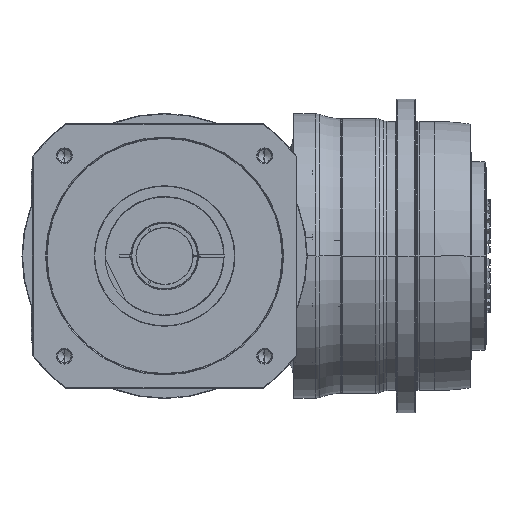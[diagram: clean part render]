
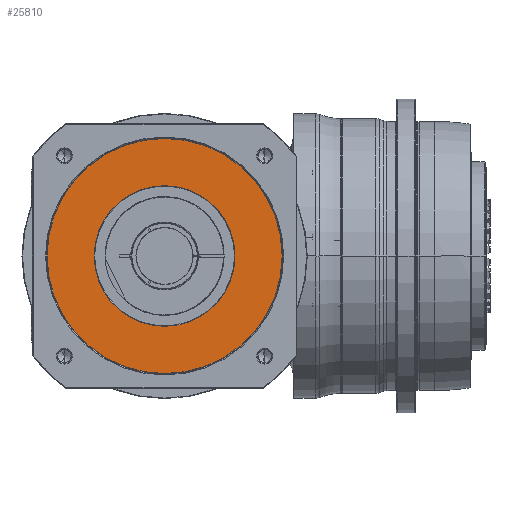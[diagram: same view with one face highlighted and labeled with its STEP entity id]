
A CAD part, front view. The second image highlights one B-rep face of the part: STEP entity #25810.
In plain terms, the highlighted planar face has unit normal (0, -1, 0) as drawn and (0, 0, 1) by its records, which use the part's own axes.
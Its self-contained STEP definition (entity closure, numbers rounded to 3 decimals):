
#24541=CARTESIAN_POINT('',(0.,0.,58.));
#24542=DIRECTION('',(0.,0.,-1.));
#24543=DIRECTION('',(0.,-1.,0.));
#24544=AXIS2_PLACEMENT_3D('',#24541,#24542,#24543);
#24546=CARTESIAN_POINT('',(0.,0.,58.));
#24547=DIRECTION('',(0.,0.,-1.));
#24548=DIRECTION('',(0.,1.,0.));
#24549=AXIS2_PLACEMENT_3D('',#24546,#24547,#24548);
#24551=CARTESIAN_POINT('',(0.,0.,58.));
#24552=DIRECTION('',(0.,0.,-1.));
#24553=DIRECTION('',(1.,0.,0.));
#24554=AXIS2_PLACEMENT_3D('',#24551,#24552,#24553);
#24569=CARTESIAN_POINT('',(0.,0.,58.));
#24570=DIRECTION('',(0.,0.,-1.));
#24571=DIRECTION('',(-1.,0.,0.));
#24572=AXIS2_PLACEMENT_3D('',#24569,#24570,#24571);
#25104=CARTESIAN_POINT('',(0.,-124.5,58.));
#25105=CARTESIAN_POINT('',(0.,124.5,58.));
#25106=VERTEX_POINT('',#25104);
#25107=VERTEX_POINT('',#25105);
#25112=CARTESIAN_POINT('',(-74.5,0.,58.));
#25113=CARTESIAN_POINT('',(74.5,0.,58.));
#25114=VERTEX_POINT('',#25112);
#25115=VERTEX_POINT('',#25113);
#25794=CARTESIAN_POINT('',(0.,0.,58.));
#25795=DIRECTION('',(0.,0.,-1.));
#25796=DIRECTION('',(0.,-1.,0.));
#25797=AXIS2_PLACEMENT_3D('',#25794,#25795,#25796);
#25798=PLANE('',#25797);
#25800=ORIENTED_EDGE('',*,*,#25799,.T.);
#25801=ORIENTED_EDGE('',*,*,#25784,.T.);
#25802=EDGE_LOOP('',(#25800,#25801));
#25803=FACE_OUTER_BOUND('',#25802,.F.);
#25805=ORIENTED_EDGE('',*,*,#25804,.F.);
#25807=ORIENTED_EDGE('',*,*,#25806,.F.);
#25808=EDGE_LOOP('',(#25805,#25807));
#25809=FACE_BOUND('',#25808,.F.);
#25810=ADVANCED_FACE('',(#25803,#25809),#25798,.F.);
#24545=CIRCLE('',#24544,124.5);
#24550=CIRCLE('',#24549,124.5);
#24555=CIRCLE('',#24554,74.5);
#24573=CIRCLE('',#24572,74.5);
#25784=EDGE_CURVE('',#25107,#25106,#24550,.T.);
#25799=EDGE_CURVE('',#25106,#25107,#24545,.T.);
#25804=EDGE_CURVE('',#25115,#25114,#24555,.T.);
#25806=EDGE_CURVE('',#25114,#25115,#24573,.T.);
